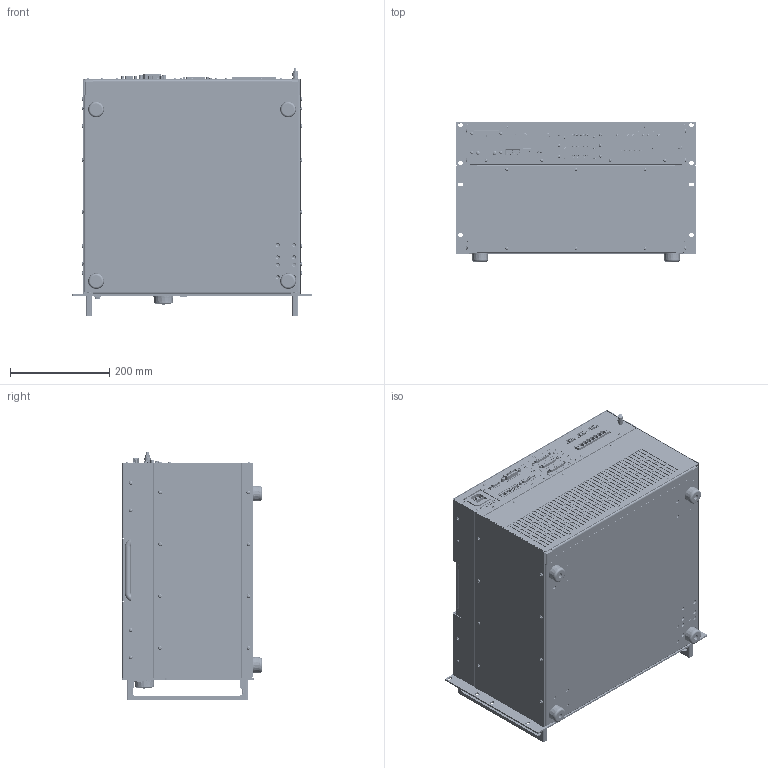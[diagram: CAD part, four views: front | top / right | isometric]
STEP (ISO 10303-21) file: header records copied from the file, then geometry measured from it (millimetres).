
FILE_DESCRIPTION(('STEP AP214'),'1');
FILE_NAME('ACL_M2_19Z_6HE_PH7_10.16-ST76_BRA_3D_02.step','2020-02-20T12:47:03',(' '),(' '),'Spatial InterOp 3D',' ',' ');
FILE_SCHEMA(('AUTOMOTIVE_DESIGN { 1 0 10303 214 1 1 1 1 }'));
Length unit declared in the file: millimetre
Products named in the file (16): 3158_6HE_ug-05_224; *U327; *U328; *U329; *U330; *U331; *U332; *U333; 2078_ACL_IO Panel_02; 1962_ACL_Rückwand Steuerteil_mit_Druck_3D_03; *U364; *U323; *U324; *U325; AutoCreatedBlock_2055
Assembly tree (76 placements, depth 2):
  (unnamed)
    3158_6HE_ug-05_224  x2
    *U327  x2
    *U328
    *U329  x3
    *U330  x2
    *U331  x2
    *U332  x17
    *U333  x16
    2078_ACL_IO Panel_02  x3
    1962_ACL_Rückwand Steuerteil_mit_Druck_3D_03
    *U364  x4
    *U323  x8
    *U324  x6
    *U325  x8
    AutoCreatedBlock_2055
Bounding box: 482.6 x 281.64 x 497.65 mm (x, y, z)
Volume: 58835443.5 mm3; surface area: 3871533 mm2
Topology: 206 solids, 274 shells, 17974 faces, 44787 edges, 28233 vertices
Faces by surface type: plane 8664, cone 5430, cylinder 3209, sphere 270, torus 211, bspline 190
Entity records: 595192 total; most frequent: CARTESIAN_POINT 112447, DIRECTION 76582, ORIENTED_EDGE 73178, EDGE_CURVE 36738, AXIS2_PLACEMENT_3D 25538, LINE 25506, VECTOR 25506, VERTEX_POINT 23127
